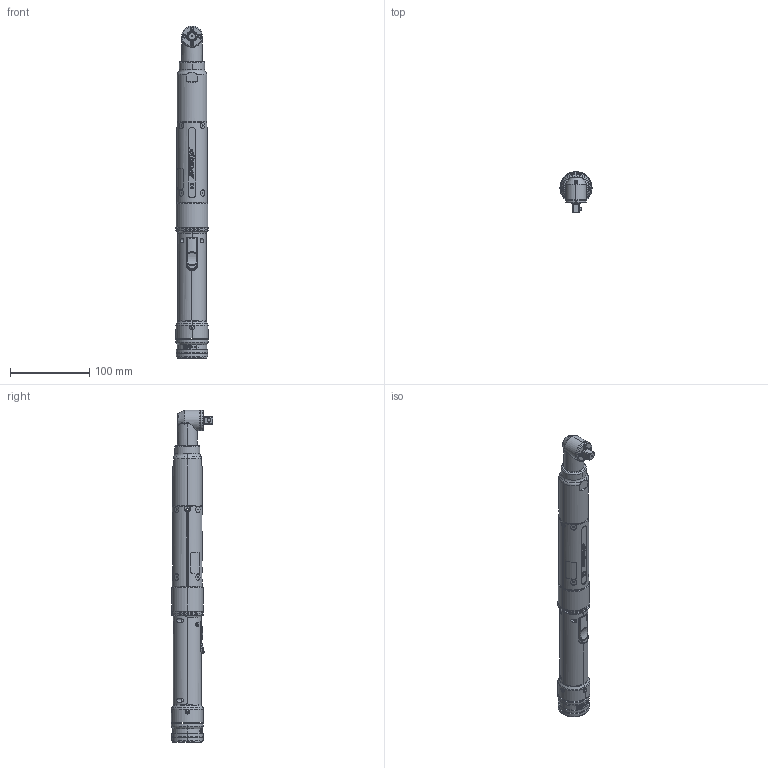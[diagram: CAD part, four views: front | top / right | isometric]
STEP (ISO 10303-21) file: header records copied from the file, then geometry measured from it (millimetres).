
FILE_DESCRIPTION (( 'STEP AP214' ), '1' );
FILE_NAME ('AEN4C22024C.STEP', '2022-08-12T22:02:46', ( '' ), ( '' ), 'SwSTEP 2.0', 'SolidWorks 2022', '' );
FILE_SCHEMA (( 'AUTOMOTIVE_DESIGN' ));
Length unit declared in the file: inch
Products named in the file (1): AEN4C22024C
Bounding box: 40.64 x 52.35 x 418.83 mm (x, y, z)
Surface area: 74879.3 mm2 (no closed solid volume)
Topology: 0 solids, 96 shells, 968 faces, 3120 edges, 2204 vertices
Faces by surface type: plane 326, cylinder 247, bspline 170, torus 122, cone 85, sphere 18
Entity records: 56108 total; most frequent: CARTESIAN_POINT 17986, DIRECTION 4905, ORIENTED_EDGE 4855, EDGE_CURVE 3113, VERTEX_POINT 2204, AXIS2_PLACEMENT_3D 1745, VECTOR 1415, LINE 1415
